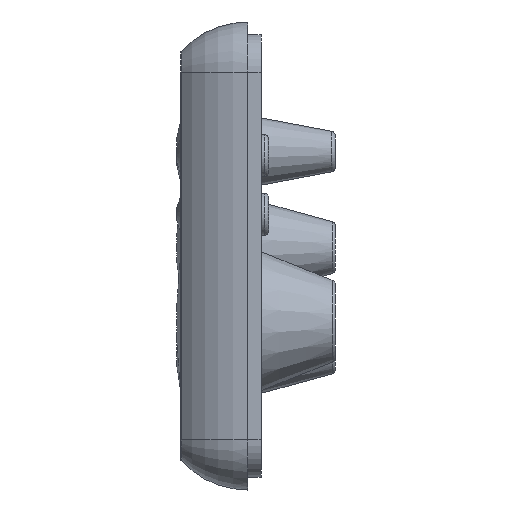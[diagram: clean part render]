
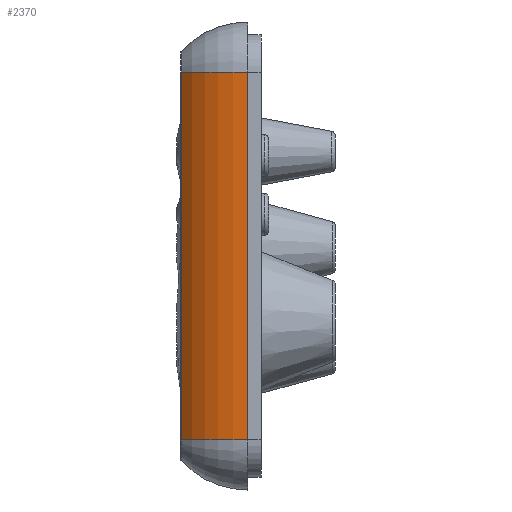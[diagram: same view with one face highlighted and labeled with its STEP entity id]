
A CAD part, left-side view. The second image highlights one B-rep face of the part: STEP entity #2370.
In plain terms, the highlighted cylindrical face has radius 10.893 mm (diameter 21.786 mm), a partial arc.
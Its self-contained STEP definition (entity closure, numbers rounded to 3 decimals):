
#122=CYLINDRICAL_SURFACE('',#2639,10.893);
#154=LINE('',#4020,#206);
#158=LINE('',#4041,#210);
#206=VECTOR('',#3113,1000.);
#210=VECTOR('',#3131,1000.);
#308=ORIENTED_EDGE('',*,*,#840,.T.);
#309=ORIENTED_EDGE('',*,*,#832,.T.);
#310=ORIENTED_EDGE('',*,*,#841,.F.);
#311=ORIENTED_EDGE('',*,*,#842,.T.);
#832=EDGE_CURVE('',#1098,#1099,#154,.T.);
#840=EDGE_CURVE('',#1106,#1098,#1328,.T.);
#841=EDGE_CURVE('',#1107,#1099,#1329,.T.);
#842=EDGE_CURVE('',#1107,#1106,#158,.T.);
#1098=VERTEX_POINT('',#4021);
#1099=VERTEX_POINT('',#4022);
#1106=VERTEX_POINT('',#4038);
#1107=VERTEX_POINT('',#4040);
#1328=CIRCLE('',#2640,10.893);
#1329=CIRCLE('',#2641,10.893);
#1533=EDGE_LOOP('',(#308,#309,#310,#311));
#1927=FACE_BOUND('',#1533,.T.);
#2370=ADVANCED_FACE('',(#1927),#122,.T.);
#2639=AXIS2_PLACEMENT_3D('',#4036,#3125,#3126);
#2640=AXIS2_PLACEMENT_3D('',#4037,#3127,#3128);
#2641=AXIS2_PLACEMENT_3D('',#4039,#3129,#3130);
#3113=DIRECTION('',(0.,0.,1.));
#3125=DIRECTION('',(0.,0.,-1.));
#3126=DIRECTION('',(-1.,0.,0.));
#3127=DIRECTION('',(0.,0.,1.));
#3128=DIRECTION('',(1.,0.,0.));
#3129=DIRECTION('',(0.,0.,1.));
#3130=DIRECTION('',(1.,0.,0.));
#3131=DIRECTION('',(0.,0.,-1.));
#4020=CARTESIAN_POINT('',(-77.,0.,-22.));
#4021=CARTESIAN_POINT('',(-77.,0.,-22.));
#4022=CARTESIAN_POINT('',(-77.,0.,22.));
#4036=CARTESIAN_POINT('',(-66.107,0.,22.));
#4037=CARTESIAN_POINT('',(-66.107,0.,-22.));
#4038=CARTESIAN_POINT('',(-73.5,8.,-22.));
#4039=CARTESIAN_POINT('',(-66.107,0.,22.));
#4040=CARTESIAN_POINT('',(-73.5,8.,22.));
#4041=CARTESIAN_POINT('',(-73.5,8.,22.));
